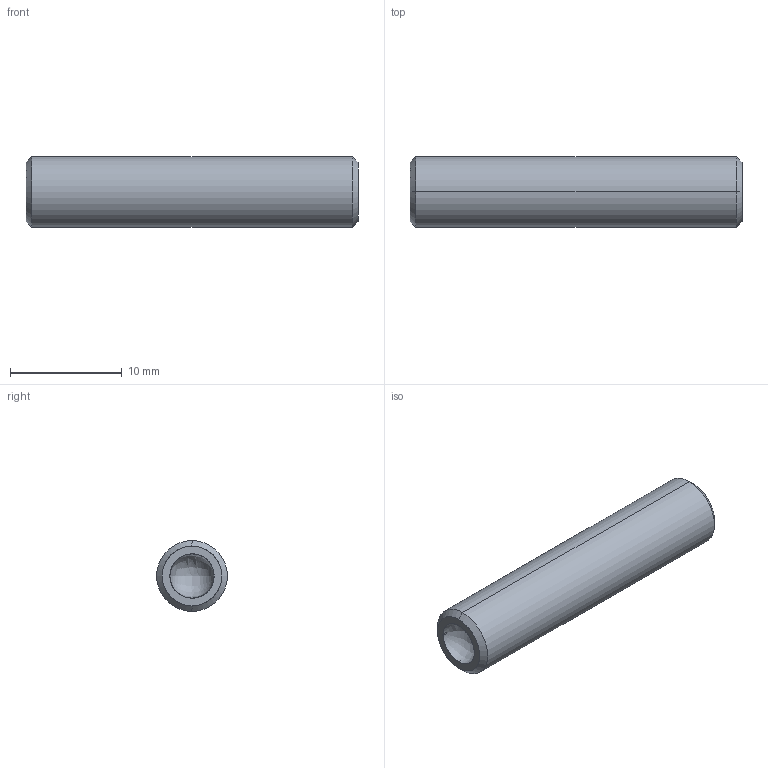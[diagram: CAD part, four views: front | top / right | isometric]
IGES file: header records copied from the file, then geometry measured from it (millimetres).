
Start section: SolidWorks IGES file using analytic representation for surfaces
Global section: file name: C:\Users\workpc\Desktop\KMA Solidworks\TS250-80 Series\TS250-80 High Vacuum\TS250-80 High Vacuum 3D Models\TS250-80-1250-HV.IGS; native system: SolidWorks 2013; preprocessor: SolidWorks 2013; author: workpc; date: 130509.085705; units: inch
Bounding box: 29.77 x 6.35 x 6.35 mm (x, y, z)
Surface area: 737.8 mm2 (no closed solid volume)
Topology: 0 solids, 0 shells, 29 faces, 267 edges, 264 vertices
Faces by surface type: revolution 18, bspline 11
